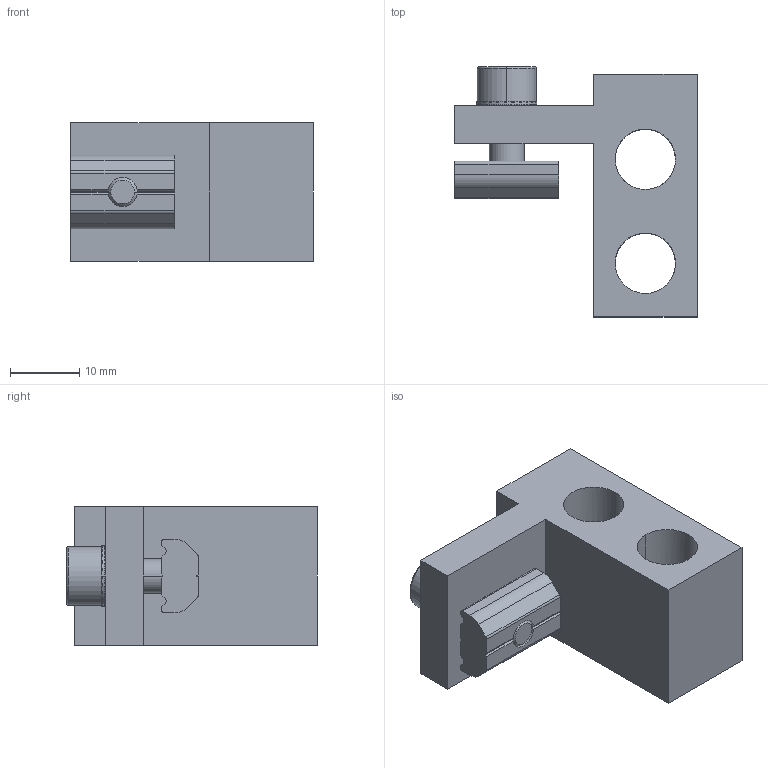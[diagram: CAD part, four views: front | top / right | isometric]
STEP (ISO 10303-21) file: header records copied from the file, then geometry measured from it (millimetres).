
FILE_DESCRIPTION (( 'STEP AP214' ), '1' );
FILE_NAME ('SMB-5G18.STEP', '2019-11-06T03:12:42', ( '微软用户' ), ( '微软中国' ), 'SwSTEP 2.0', 'SolidWorks 2016', '' );
FILE_SCHEMA (( 'AUTOMOTIVE_DESIGN' ));
Length unit declared in the file: millimetre
Products named in the file (1): SMB-5G18
Bounding box: 35 x 36.1 x 20 mm (x, y, z)
Volume: 10434 mm3; surface area: 6413.5 mm2
Topology: 4 solids, 4 shells, 278 faces, 815 edges, 540 vertices
Faces by surface type: plane 236, cylinder 38, cone 2, bspline 2
Entity records: 12864 total; most frequent: CARTESIAN_POINT 2215, ORIENTED_EDGE 1630, DIRECTION 1561, EDGE_CURVE 815, VERTEX_POINT 540, LINE 527, VECTOR 527, AXIS2_PLACEMENT_3D 517
